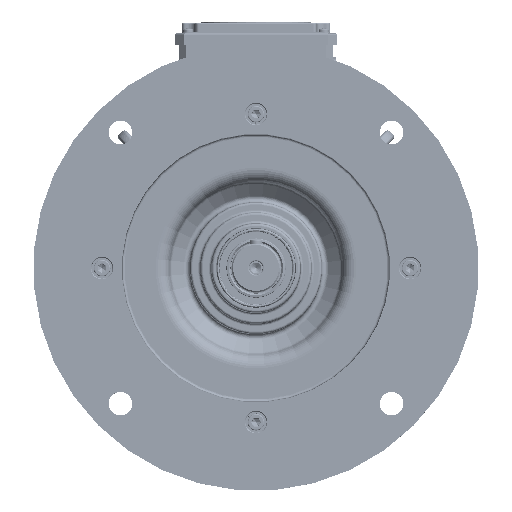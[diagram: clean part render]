
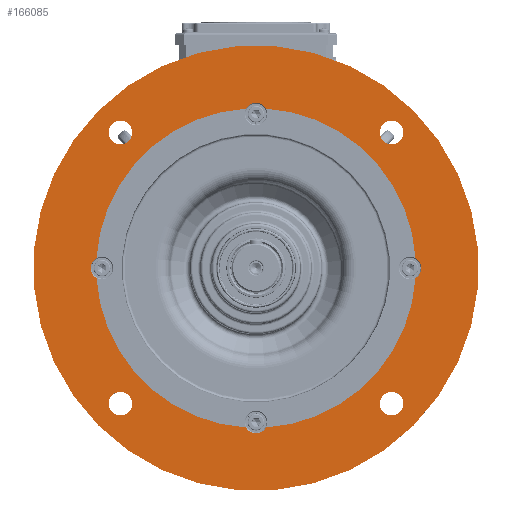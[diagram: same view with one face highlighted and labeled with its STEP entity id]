
A CAD part, top view. The second image highlights one B-rep face of the part: STEP entity #166085.
In plain terms, the highlighted planar face has unit normal (0, 0, 1).
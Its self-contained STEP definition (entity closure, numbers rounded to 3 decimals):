
#52147=PLANE('',#214648);
#57865=EDGE_LOOP('',(#83236));
#57866=EDGE_LOOP('',(#83237));
#57867=EDGE_LOOP('',(#83238));
#57868=EDGE_LOOP('',(#83239));
#57869=EDGE_LOOP('',(#83240,#83241,#83242,#83243,#83244,#83245,#83246,#83247));
#57870=EDGE_LOOP('',(#83248));
#83236=ORIENTED_EDGE('',*,*,#137429,.F.);
#83237=ORIENTED_EDGE('',*,*,#137430,.F.);
#83238=ORIENTED_EDGE('',*,*,#137431,.F.);
#83239=ORIENTED_EDGE('',*,*,#137432,.F.);
#83240=ORIENTED_EDGE('',*,*,#137424,.T.);
#83241=ORIENTED_EDGE('',*,*,#137433,.T.);
#83242=ORIENTED_EDGE('',*,*,#137434,.T.);
#83243=ORIENTED_EDGE('',*,*,#137435,.T.);
#83244=ORIENTED_EDGE('',*,*,#137416,.T.);
#83245=ORIENTED_EDGE('',*,*,#137436,.T.);
#83246=ORIENTED_EDGE('',*,*,#137408,.T.);
#83247=ORIENTED_EDGE('',*,*,#137437,.T.);
#83248=ORIENTED_EDGE('',*,*,#137438,.T.);
#137408=EDGE_CURVE('',#184034,#184033,#200767,.T.);
#137416=EDGE_CURVE('',#184042,#184041,#200769,.T.);
#137424=EDGE_CURVE('',#184050,#184049,#200771,.T.);
#137429=EDGE_CURVE('',#184054,#184054,#200773,.T.);
#137430=EDGE_CURVE('',#184055,#184055,#200774,.T.);
#137431=EDGE_CURVE('',#184056,#184056,#200775,.T.);
#137432=EDGE_CURVE('',#184057,#184057,#200776,.T.);
#137433=EDGE_CURVE('',#184049,#184058,#200777,.T.);
#137434=EDGE_CURVE('',#184058,#184059,#200778,.T.);
#137435=EDGE_CURVE('',#184059,#184042,#200779,.T.);
#137436=EDGE_CURVE('',#184041,#184034,#200780,.T.);
#137437=EDGE_CURVE('',#184033,#184050,#200781,.T.);
#137438=EDGE_CURVE('',#184060,#184060,#200782,.T.);
#166085=ADVANCED_FACE('',(#178433,#178434,#178435,#178436,#178437,#178438),
#52147,.T.);
#178433=FACE_BOUND('',#57865,.T.);
#178434=FACE_BOUND('',#57866,.T.);
#178435=FACE_BOUND('',#57867,.T.);
#178436=FACE_BOUND('',#57868,.T.);
#178437=FACE_BOUND('',#57869,.T.);
#178438=FACE_BOUND('',#57870,.T.);
#184033=VERTEX_POINT('',#346361);
#184034=VERTEX_POINT('',#346363);
#184041=VERTEX_POINT('',#346390);
#184042=VERTEX_POINT('',#346392);
#184049=VERTEX_POINT('',#346419);
#184050=VERTEX_POINT('',#346421);
#184054=VERTEX_POINT('',#346437);
#184055=VERTEX_POINT('',#346439);
#184056=VERTEX_POINT('',#346441);
#184057=VERTEX_POINT('',#346443);
#184058=VERTEX_POINT('',#346445);
#184059=VERTEX_POINT('',#346447);
#184060=VERTEX_POINT('',#346452);
#200767=CIRCLE('',#214629,125.);
#200769=CIRCLE('',#214632,125.);
#200771=CIRCLE('',#214635,125.);
#200773=CIRCLE('',#214638,9.25);
#200774=CIRCLE('',#214639,9.25);
#200775=CIRCLE('',#214640,9.25);
#200776=CIRCLE('',#214641,9.25);
#200777=CIRCLE('',#214642,8.85);
#200778=CIRCLE('',#214643,125.);
#200779=CIRCLE('',#214644,8.85);
#200780=CIRCLE('',#214645,8.85);
#200781=CIRCLE('',#214646,8.85);
#200782=CIRCLE('',#214647,174.25);
#214629=AXIS2_PLACEMENT_3D('',#346362,#244553,#244554);
#214632=AXIS2_PLACEMENT_3D('',#346391,#244561,#244562);
#214635=AXIS2_PLACEMENT_3D('',#346420,#244569,#244570);
#214638=AXIS2_PLACEMENT_3D('',#346436,#244576,#244577);
#214639=AXIS2_PLACEMENT_3D('',#346438,#244578,#244579);
#214640=AXIS2_PLACEMENT_3D('',#346440,#244580,#244581);
#214641=AXIS2_PLACEMENT_3D('',#346442,#244582,#244583);
#214642=AXIS2_PLACEMENT_3D('',#346444,#244584,#244585);
#214643=AXIS2_PLACEMENT_3D('',#346446,#244586,#244587);
#214644=AXIS2_PLACEMENT_3D('',#346448,#244588,#244589);
#214645=AXIS2_PLACEMENT_3D('',#346449,#244590,#244591);
#214646=AXIS2_PLACEMENT_3D('',#346450,#244592,#244593);
#214647=AXIS2_PLACEMENT_3D('',#346451,#244594,#244595);
#214648=AXIS2_PLACEMENT_3D('',#346453,#244596,#244597);
#244553=DIRECTION('',(0.,0.,-1.));
#244554=DIRECTION('',(0.707,-0.707,0.));
#244561=DIRECTION('',(0.,0.,-1.));
#244562=DIRECTION('',(0.707,-0.707,0.));
#244569=DIRECTION('',(0.,0.,-1.));
#244570=DIRECTION('',(0.707,-0.707,0.));
#244576=DIRECTION('',(0.,0.,1.));
#244577=DIRECTION('',(0.707,0.707,0.));
#244578=DIRECTION('',(0.,0.,1.));
#244579=DIRECTION('',(-0.707,0.707,0.));
#244580=DIRECTION('',(0.,0.,1.));
#244581=DIRECTION('',(-0.707,-0.707,0.));
#244582=DIRECTION('',(0.,0.,1.));
#244583=DIRECTION('',(0.707,-0.707,0.));
#244584=DIRECTION('',(0.,0.,-1.));
#244585=DIRECTION('',(-0.707,0.707,0.));
#244586=DIRECTION('',(0.,0.,-1.));
#244587=DIRECTION('',(0.707,-0.707,0.));
#244588=DIRECTION('',(0.,0.,-1.));
#244589=DIRECTION('',(-0.707,0.707,0.));
#244590=DIRECTION('',(0.,0.,-1.));
#244591=DIRECTION('',(-0.707,0.707,0.));
#244592=DIRECTION('',(0.,0.,-1.));
#244593=DIRECTION('',(-0.707,0.707,0.));
#244594=DIRECTION('',(0.,0.,1.));
#244595=DIRECTION('',(0.707,-0.707,0.));
#244596=DIRECTION('',(0.,0.,1.));
#244597=DIRECTION('',(-0.707,0.707,0.));
#346361=CARTESIAN_POINT('',(7.757,-124.763,72.5));
#346362=CARTESIAN_POINT('',(-0.001,-0.004,
72.495));
#346363=CARTESIAN_POINT('',(124.758,-7.762,72.494));
#346390=CARTESIAN_POINT('',(124.758,7.754,72.493));
#346391=CARTESIAN_POINT('',(-0.001,-0.004,
72.495));
#346392=CARTESIAN_POINT('',(7.757,124.755,72.489));
#346419=CARTESIAN_POINT('',(-124.76,-7.762,72.496));
#346420=CARTESIAN_POINT('',(-0.001,-0.004,
72.495));
#346421=CARTESIAN_POINT('',(-7.759,-124.763,72.5));
#346436=CARTESIAN_POINT('',(-106.067,106.062,72.491));
#346437=CARTESIAN_POINT('',(-99.526,112.603,72.491));
#346438=CARTESIAN_POINT('',(-106.067,-106.07,72.501));
#346439=CARTESIAN_POINT('',(-112.608,-99.529,72.5));
#346440=CARTESIAN_POINT('',(106.065,-106.07,72.498));
#346441=CARTESIAN_POINT('',(99.524,-112.611,72.499));
#346442=CARTESIAN_POINT('',(106.065,106.062,72.489));
#346443=CARTESIAN_POINT('',(112.606,99.522,72.489));
#346444=CARTESIAN_POINT('',(-120.501,-0.004,72.496));
#346445=CARTESIAN_POINT('',(-124.76,7.754,72.496));
#346446=CARTESIAN_POINT('',(-0.001,-0.004,
72.495));
#346447=CARTESIAN_POINT('',(-7.759,124.755,72.489));
#346448=CARTESIAN_POINT('',(-0.001,120.496,72.489));
#346449=CARTESIAN_POINT('',(120.499,-0.004,72.493));
#346450=CARTESIAN_POINT('',(-0.001,-120.504,72.5));
#346451=CARTESIAN_POINT('',(-0.001,-0.004,
72.495));
#346452=CARTESIAN_POINT('',(123.212,-123.217,72.499));
#346453=CARTESIAN_POINT('',(-0.001,-0.004,
72.495));
